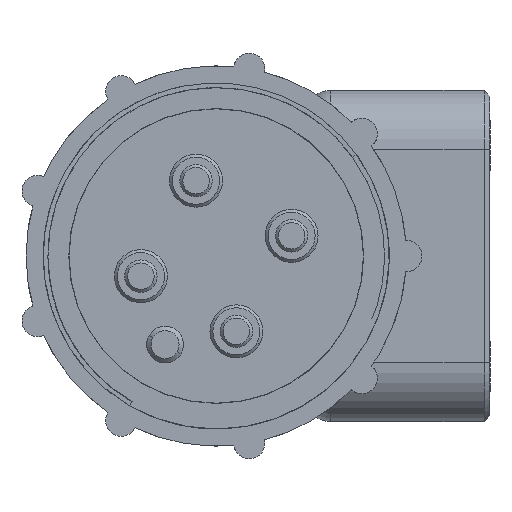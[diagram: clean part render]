
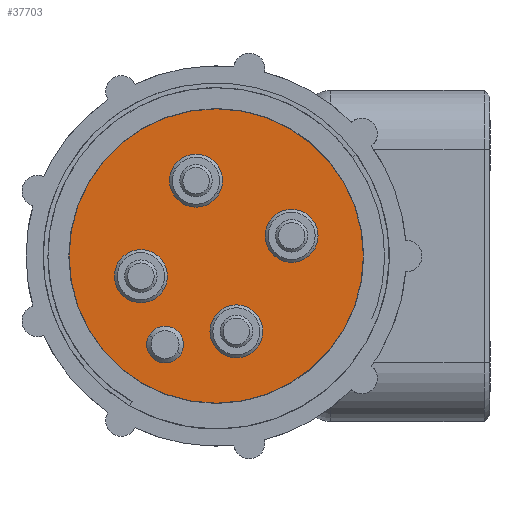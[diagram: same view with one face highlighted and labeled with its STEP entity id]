
A CAD part, left-side view. The second image highlights one B-rep face of the part: STEP entity #37703.
In plain terms, the highlighted planar face has unit normal (-1, 0, 0).
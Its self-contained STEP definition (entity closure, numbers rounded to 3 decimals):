
#656 = AXIS2_PLACEMENT_3D ( 'NONE', #36972, #34371, #32909 ) ;
#869 = DIRECTION ( 'NONE',  ( -1., 0., 0. ) ) ;
#1026 = CIRCLE ( 'NONE', #30057, 2.286 ) ;
#1618 = FACE_BOUND ( 'NONE', #34328, .T. ) ;
#1650 = EDGE_CURVE ( 'NONE', #44220, #7012, #29529, .T. ) ;
#2017 = CIRCLE ( 'NONE', #45132, 2.286 ) ;
#2151 = CARTESIAN_POINT ( 'NONE',  ( -60.813, -8.481, 0.599 ) ) ;
#3935 = DIRECTION ( 'NONE',  ( -1., 0., 0. ) ) ;
#3959 = CARTESIAN_POINT ( 'NONE',  ( -60.813, 0.238, -5.359 ) ) ;
#4445 = CARTESIAN_POINT ( 'NONE',  ( -60.813, 4.522, -2.885 ) ) ;
#4596 = EDGE_CURVE ( 'NONE', #45348, #28212, #7895, .T. ) ;
#4948 = EDGE_CURVE ( 'NONE', #9082, #8943, #21989, .T. ) ;
#5228 = CARTESIAN_POINT ( 'NONE',  ( -60.813, -1.742, -6.502 ) ) ;
#5824 = AXIS2_PLACEMENT_3D ( 'NONE', #6496, #31119, #10094 ) ;
#6013 = ORIENTED_EDGE ( 'NONE', *, *, #28799, .F. ) ;
#6015 = AXIS2_PLACEMENT_3D ( 'NONE', #21917, #869, #25477 ) ;
#6029 = ORIENTED_EDGE ( 'NONE', *, *, #28703, .F. ) ;
#6282 = ORIENTED_EDGE ( 'NONE', *, *, #41250, .F. ) ;
#6496 = CARTESIAN_POINT ( 'NONE',  ( -60.813, 1.742, 6.502 ) ) ;
#6885 = CARTESIAN_POINT ( 'NONE',  ( -60.813, 1.742, 6.502 ) ) ;
#7012 = VERTEX_POINT ( 'NONE', #4445 ) ;
#7343 = CARTESIAN_POINT ( 'NONE',  ( -60.813, 0., 0. ) ) ;
#7895 = CIRCLE ( 'NONE', #15452, 12.7 ) ;
#8810 = DIRECTION ( 'NONE',  ( 0., 0.866, 0.5 ) ) ;
#8937 = VERTEX_POINT ( 'NONE', #3959 ) ;
#8943 = VERTEX_POINT ( 'NONE', #22094 ) ;
#9082 = VERTEX_POINT ( 'NONE', #33644 ) ;
#9988 = FACE_OUTER_BOUND ( 'NONE', #11656, .T. ) ;
#10094 = DIRECTION ( 'NONE',  ( 0., 0.866, 0.5 ) ) ;
#10453 = DIRECTION ( 'NONE',  ( 0., 0.866, 0.5 ) ) ;
#11057 = FACE_BOUND ( 'NONE', #40910, .T. ) ;
#11488 = ORIENTED_EDGE ( 'NONE', *, *, #39474, .F. ) ;
#11656 = EDGE_LOOP ( 'NONE', ( #43268, #16646 ) ) ;
#12237 = EDGE_CURVE ( 'NONE', #28212, #45348, #16057, .T. ) ;
#12324 = AXIS2_PLACEMENT_3D ( 'NONE', #13172, #43986, #16248 ) ;
#12788 = CARTESIAN_POINT ( 'NONE',  ( -60.813, 0., 0. ) ) ;
#13172 = CARTESIAN_POINT ( 'NONE',  ( -60.813, 6.502, -1.742 ) ) ;
#14050 = DIRECTION ( 'NONE',  ( -1., 0., 0. ) ) ;
#14052 = CARTESIAN_POINT ( 'NONE',  ( -60.813, -6.502, 1.742 ) ) ;
#15452 = AXIS2_PLACEMENT_3D ( 'NONE', #7343, #38853, #44765 ) ;
#15720 = AXIS2_PLACEMENT_3D ( 'NONE', #36256, #36209, #36159 ) ;
#15901 = CIRCLE ( 'NONE', #5824, 2.286 ) ;
#16057 = CIRCLE ( 'NONE', #18433, 12.7 ) ;
#16115 = PLANE ( 'NONE',  #23062 ) ;
#16248 = DIRECTION ( 'NONE',  ( 0., 0.866, 0.5 ) ) ;
#16263 = DIRECTION ( 'NONE',  ( 0., -0.5, 0.866 ) ) ;
#16270 = DIRECTION ( 'NONE',  ( 0., 0.5, -0.866 ) ) ;
#16318 = DIRECTION ( 'NONE',  ( 1., 0., 0. ) ) ;
#16364 = CARTESIAN_POINT ( 'NONE',  ( -60.813, 0., 0. ) ) ;
#16410 = CARTESIAN_POINT ( 'NONE',  ( -60.813, -6.35, 10.999 ) ) ;
#16646 = ORIENTED_EDGE ( 'NONE', *, *, #4596, .F. ) ;
#17108 = AXIS2_PLACEMENT_3D ( 'NONE', #5228, #29834, #8810 ) ;
#17515 = CIRCLE ( 'NONE', #15720, 1.588 ) ;
#17563 = DIRECTION ( 'NONE',  ( 0., 0.866, 0.5 ) ) ;
#18433 = AXIS2_PLACEMENT_3D ( 'NONE', #16364, #16318, #16270 ) ;
#18665 = VERTEX_POINT ( 'NONE', #38722 ) ;
#19247 = FACE_BOUND ( 'NONE', #40263, .T. ) ;
#20186 = VERTEX_POINT ( 'NONE', #35749 ) ;
#20878 = CARTESIAN_POINT ( 'NONE',  ( -60.813, 8.481, -0.599 ) ) ;
#21454 = CIRCLE ( 'NONE', #21584, 2.286 ) ;
#21584 = AXIS2_PLACEMENT_3D ( 'NONE', #6885, #31489, #10453 ) ;
#21917 = CARTESIAN_POINT ( 'NONE',  ( -60.813, 6.502, -1.742 ) ) ;
#21989 = CIRCLE ( 'NONE', #656, 1.588 ) ;
#22094 = CARTESIAN_POINT ( 'NONE',  ( -60.813, 5.788, -6.85 ) ) ;
#23062 = AXIS2_PLACEMENT_3D ( 'NONE', #12788, #37297, #16263 ) ;
#23953 = ORIENTED_EDGE ( 'NONE', *, *, #4948, .F. ) ;
#24827 = EDGE_CURVE ( 'NONE', #8943, #9082, #17515, .T. ) ;
#24949 = CARTESIAN_POINT ( 'NONE',  ( -60.813, -1.742, -6.502 ) ) ;
#25100 = ORIENTED_EDGE ( 'NONE', *, *, #44809, .F. ) ;
#25477 = DIRECTION ( 'NONE',  ( 0., 0.866, 0.5 ) ) ;
#26966 = EDGE_CURVE ( 'NONE', #27933, #18665, #15901, .T. ) ;
#27933 = VERTEX_POINT ( 'NONE', #41828 ) ;
#28212 = VERTEX_POINT ( 'NONE', #32772 ) ;
#28282 = CARTESIAN_POINT ( 'NONE',  ( -60.813, -3.722, -7.645 ) ) ;
#28524 = DIRECTION ( 'NONE',  ( 0., 0.866, 0.5 ) ) ;
#28599 = FACE_BOUND ( 'NONE', #29118, .T. ) ;
#28703 = EDGE_CURVE ( 'NONE', #8937, #39535, #32309, .T. ) ;
#28799 = EDGE_CURVE ( 'NONE', #34723, #20186, #2017, .T. ) ;
#29118 = EDGE_LOOP ( 'NONE', ( #6282, #45135 ) ) ;
#29529 = CIRCLE ( 'NONE', #12324, 2.286 ) ;
#29834 = DIRECTION ( 'NONE',  ( -1., 0., 0. ) ) ;
#30057 = AXIS2_PLACEMENT_3D ( 'NONE', #24949, #3935, #28524 ) ;
#31119 = DIRECTION ( 'NONE',  ( -1., 0., 0. ) ) ;
#31489 = DIRECTION ( 'NONE',  ( -1., 0., 0. ) ) ;
#32264 = AXIS2_PLACEMENT_3D ( 'NONE', #14052, #38563, #17563 ) ;
#32309 = CIRCLE ( 'NONE', #17108, 2.286 ) ;
#32657 = CIRCLE ( 'NONE', #6015, 2.286 ) ;
#32772 = CARTESIAN_POINT ( 'NONE',  ( -60.813, 6.35, -10.999 ) ) ;
#32909 = DIRECTION ( 'NONE',  ( 0., 0.866, 0.5 ) ) ;
#33499 = EDGE_CURVE ( 'NONE', #18665, #27933, #21454, .T. ) ;
#33644 = CARTESIAN_POINT ( 'NONE',  ( -60.813, 3.038, -8.438 ) ) ;
#34328 = EDGE_LOOP ( 'NONE', ( #6013, #11488 ) ) ;
#34371 = DIRECTION ( 'NONE',  ( -1., 0., 0. ) ) ;
#34573 = CIRCLE ( 'NONE', #32264, 2.286 ) ;
#34723 = VERTEX_POINT ( 'NONE', #2151 ) ;
#35053 = CARTESIAN_POINT ( 'NONE',  ( -60.813, -6.502, 1.742 ) ) ;
#35749 = CARTESIAN_POINT ( 'NONE',  ( -60.813, -4.522, 2.885 ) ) ;
#36054 = ORIENTED_EDGE ( 'NONE', *, *, #33499, .F. ) ;
#36159 = DIRECTION ( 'NONE',  ( 0., 0.866, 0.5 ) ) ;
#36209 = DIRECTION ( 'NONE',  ( -1., 0., 0. ) ) ;
#36256 = CARTESIAN_POINT ( 'NONE',  ( -60.813, 4.413, -7.644 ) ) ;
#36972 = CARTESIAN_POINT ( 'NONE',  ( -60.813, 4.413, -7.644 ) ) ;
#37297 = DIRECTION ( 'NONE',  ( -1., 0., 0. ) ) ;
#37703 = ADVANCED_FACE ( 'NONE', ( #37945, #11057, #1618, #28599, #19247, #9988 ), #16115, .T. ) ;
#37945 = FACE_BOUND ( 'NONE', #41419, .T. ) ;
#38559 = DIRECTION ( 'NONE',  ( 0., 0.866, 0.5 ) ) ;
#38563 = DIRECTION ( 'NONE',  ( -1., 0., 0. ) ) ;
#38722 = CARTESIAN_POINT ( 'NONE',  ( -60.813, 3.722, 7.645 ) ) ;
#38853 = DIRECTION ( 'NONE',  ( 1., 0., 0. ) ) ;
#39474 = EDGE_CURVE ( 'NONE', #20186, #34723, #34573, .T. ) ;
#39535 = VERTEX_POINT ( 'NONE', #28282 ) ;
#40263 = EDGE_LOOP ( 'NONE', ( #42823, #23953 ) ) ;
#40910 = EDGE_LOOP ( 'NONE', ( #25100, #6029 ) ) ;
#41018 = ORIENTED_EDGE ( 'NONE', *, *, #26966, .F. ) ;
#41250 = EDGE_CURVE ( 'NONE', #7012, #44220, #32657, .T. ) ;
#41419 = EDGE_LOOP ( 'NONE', ( #41018, #36054 ) ) ;
#41828 = CARTESIAN_POINT ( 'NONE',  ( -60.813, -0.238, 5.359 ) ) ;
#42823 = ORIENTED_EDGE ( 'NONE', *, *, #24827, .F. ) ;
#43268 = ORIENTED_EDGE ( 'NONE', *, *, #12237, .F. ) ;
#43986 = DIRECTION ( 'NONE',  ( -1., 0., 0. ) ) ;
#44220 = VERTEX_POINT ( 'NONE', #20878 ) ;
#44765 = DIRECTION ( 'NONE',  ( 0., 0.5, -0.866 ) ) ;
#44809 = EDGE_CURVE ( 'NONE', #39535, #8937, #1026, .T. ) ;
#45132 = AXIS2_PLACEMENT_3D ( 'NONE', #35053, #14050, #38559 ) ;
#45135 = ORIENTED_EDGE ( 'NONE', *, *, #1650, .F. ) ;
#45348 = VERTEX_POINT ( 'NONE', #16410 ) ;
